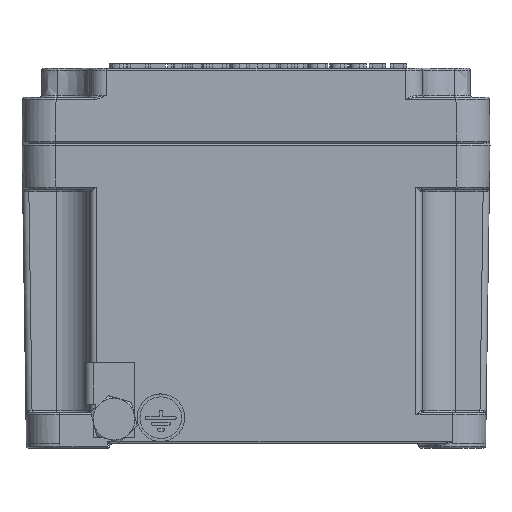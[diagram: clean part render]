
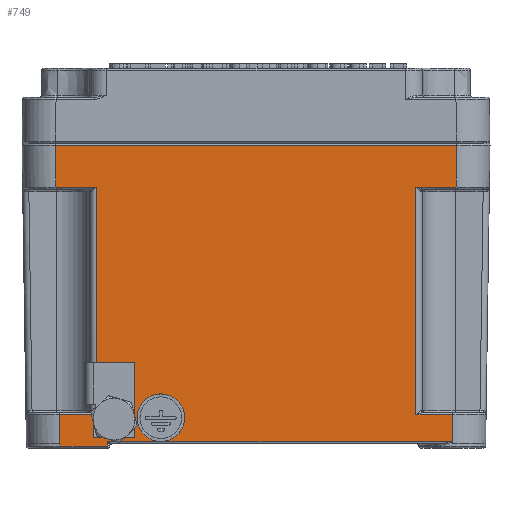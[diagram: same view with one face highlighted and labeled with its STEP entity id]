
A CAD part, left-side view. The second image highlights one B-rep face of the part: STEP entity #749.
In plain terms, the highlighted planar face has unit normal (-1, 0, -0.015).
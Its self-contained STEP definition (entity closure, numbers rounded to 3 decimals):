
#114=CARTESIAN_POINT('',(-55.174,22.786,11.981));
#115=VERTEX_POINT('',#114);
#116=CARTESIAN_POINT('',(-55.091,22.786,6.281));
#117=DIRECTION('',(1.,0.,0.015));
#118=DIRECTION('',(0.015,0.,-1.));
#119=AXIS2_PLACEMENT_3D('',#116,#117,#118);
#120=CIRCLE('',#119,5.7);
#121=EDGE_CURVE('',#115,#115,#120,.T.);
#600=CARTESIAN_POINT('',(-55.,-55.,0.0));
#601=DIRECTION('',(-1.,0.,-0.015));
#602=DIRECTION('',(0.0,-1.0,0.0));
#603=AXIS2_PLACEMENT_3D('',#600,#601,#602);
#604=PLANE('',#603);
#605=CARTESIAN_POINT('',(-55.007,35.493,0.493));
#606=VERTEX_POINT('',#605);
#607=CARTESIAN_POINT('',(-54.993,35.507,-0.507));
#608=VERTEX_POINT('',#607);
#609=CARTESIAN_POINT('',(-55.007,35.493,0.493));
#610=DIRECTION('',(0.015,0.015,-1.));
#611=VECTOR('',#610,1.);
#612=LINE('',#609,#611);
#613=EDGE_CURVE('',#606,#608,#612,.T.);
#614=ORIENTED_EDGE('',*,*,#613,.F.);
#615=CARTESIAN_POINT('',(-55.007,-47.001,0.493));
#616=VERTEX_POINT('',#615);
#617=CARTESIAN_POINT('',(-55.007,35.493,0.493));
#618=DIRECTION('',(0.0,-1.0,0.0));
#619=VECTOR('',#618,82.494);
#620=LINE('',#617,#619);
#621=EDGE_CURVE('',#606,#616,#620,.T.);
#622=ORIENTED_EDGE('',*,*,#621,.T.);
#623=CARTESIAN_POINT('',(-55.,-47.001,0.023));
#624=VERTEX_POINT('',#623);
#625=CARTESIAN_POINT('',(-55.007,-47.001,0.493));
#626=DIRECTION('',(0.015,0.0,-1.));
#627=VECTOR('',#626,0.469);
#628=LINE('',#625,#627);
#629=EDGE_CURVE('',#616,#624,#628,.T.);
#630=ORIENTED_EDGE('',*,*,#629,.T.);
#631=CARTESIAN_POINT('',(-55.102,-47.103,6.993));
#632=VERTEX_POINT('',#631);
#633=CARTESIAN_POINT('',(-55.102,-47.103,6.993));
#634=DIRECTION('',(0.015,0.015,-1.));
#635=VECTOR('',#634,6.971);
#636=LINE('',#633,#635);
#637=EDGE_CURVE('',#632,#624,#636,.T.);
#638=ORIENTED_EDGE('',*,*,#637,.F.);
#639=CARTESIAN_POINT('',(-55.102,-38.302,6.993));
#640=VERTEX_POINT('',#639);
#641=CARTESIAN_POINT('',(-55.102,-38.302,6.993));
#642=DIRECTION('',(0.0,-1.0,0.0));
#643=VECTOR('',#642,8.8);
#644=LINE('',#641,#643);
#645=EDGE_CURVE('',#640,#632,#644,.T.);
#646=ORIENTED_EDGE('',*,*,#645,.F.);
#647=CARTESIAN_POINT('',(-55.894,-38.291,61.493));
#648=VERTEX_POINT('',#647);
#649=CARTESIAN_POINT('',(-55.894,-38.291,61.493));
#650=DIRECTION('',(0.015,0.,-1.));
#651=VECTOR('',#650,54.506);
#652=LINE('',#649,#651);
#653=EDGE_CURVE('',#648,#640,#652,.T.);
#654=ORIENTED_EDGE('',*,*,#653,.F.);
#655=CARTESIAN_POINT('',(-55.894,-47.895,61.493));
#656=VERTEX_POINT('',#655);
#657=CARTESIAN_POINT('',(-55.894,-47.895,61.493));
#658=DIRECTION('',(0.0,1.0,0.0));
#659=VECTOR('',#658,9.604);
#660=LINE('',#657,#659);
#661=EDGE_CURVE('',#656,#648,#660,.T.);
#662=ORIENTED_EDGE('',*,*,#661,.F.);
#663=CARTESIAN_POINT('',(-56.039,-48.04,71.493));
#664=VERTEX_POINT('',#663);
#665=CARTESIAN_POINT('',(-56.039,-48.04,71.493));
#666=DIRECTION('',(0.015,0.015,-1.));
#667=VECTOR('',#666,10.002);
#668=LINE('',#665,#667);
#669=EDGE_CURVE('',#664,#656,#668,.T.);
#670=ORIENTED_EDGE('',*,*,#669,.F.);
#671=CARTESIAN_POINT('',(-56.039,48.04,71.493));
#672=VERTEX_POINT('',#671);
#673=CARTESIAN_POINT('',(-56.039,48.04,71.493));
#674=DIRECTION('',(0.0,-1.0,0.0));
#675=VECTOR('',#674,96.081);
#676=LINE('',#673,#675);
#677=EDGE_CURVE('',#672,#664,#676,.T.);
#678=ORIENTED_EDGE('',*,*,#677,.F.);
#679=CARTESIAN_POINT('',(-55.894,47.895,61.493));
#680=VERTEX_POINT('',#679);
#681=CARTESIAN_POINT('',(-55.894,47.895,61.493));
#682=DIRECTION('',(-0.015,0.015,1.));
#683=VECTOR('',#682,10.002);
#684=LINE('',#681,#683);
#685=EDGE_CURVE('',#680,#672,#684,.T.);
#686=ORIENTED_EDGE('',*,*,#685,.F.);
#687=CARTESIAN_POINT('',(-55.894,38.291,61.493));
#688=VERTEX_POINT('',#687);
#689=CARTESIAN_POINT('',(-55.894,38.291,61.493));
#690=DIRECTION('',(0.0,1.0,0.0));
#691=VECTOR('',#690,9.604);
#692=LINE('',#689,#691);
#693=EDGE_CURVE('',#688,#680,#692,.T.);
#694=ORIENTED_EDGE('',*,*,#693,.F.);
#695=CARTESIAN_POINT('',(-55.102,38.302,6.993));
#696=VERTEX_POINT('',#695);
#697=CARTESIAN_POINT('',(-55.102,38.302,6.993));
#698=DIRECTION('',(-0.015,0.,1.));
#699=VECTOR('',#698,54.506);
#700=LINE('',#697,#699);
#701=EDGE_CURVE('',#696,#688,#700,.T.);
#702=ORIENTED_EDGE('',*,*,#701,.F.);
#703=CARTESIAN_POINT('',(-55.102,47.103,6.993));
#704=VERTEX_POINT('',#703);
#705=CARTESIAN_POINT('',(-55.102,47.103,6.993));
#706=DIRECTION('',(0.0,-1.0,0.0));
#707=VECTOR('',#706,8.8);
#708=LINE('',#705,#707);
#709=EDGE_CURVE('',#704,#696,#708,.T.);
#710=ORIENTED_EDGE('',*,*,#709,.F.);
#711=CARTESIAN_POINT('',(-55.,47.001,0.0));
#712=VERTEX_POINT('',#711);
#713=CARTESIAN_POINT('',(-55.0,47.001,0.));
#714=DIRECTION('',(-0.015,0.015,1.));
#715=VECTOR('',#714,6.994);
#716=LINE('',#713,#715);
#717=EDGE_CURVE('',#712,#704,#716,.T.);
#718=ORIENTED_EDGE('',*,*,#717,.F.);
#719=CARTESIAN_POINT('',(-54.993,47.001,-0.507));
#720=VERTEX_POINT('',#719);
#721=CARTESIAN_POINT('',(-55.,47.001,0.0));
#722=DIRECTION('',(0.015,0.0,-1.));
#723=VECTOR('',#722,0.507);
#724=LINE('',#721,#723);
#725=EDGE_CURVE('',#712,#720,#724,.T.);
#726=ORIENTED_EDGE('',*,*,#725,.T.);
#727=CARTESIAN_POINT('',(-54.993,35.507,-0.507));
#728=DIRECTION('',(0.0,1.0,0.0));
#729=VECTOR('',#728,11.494);
#730=LINE('',#727,#729);
#731=EDGE_CURVE('',#608,#720,#730,.T.);
#732=ORIENTED_EDGE('',*,*,#731,.F.);
#733=EDGE_LOOP('',(#614,#622,#630,#638,#646,#654,#662,#670,#678,#686,#694,#702,#710,#718,#726,#732));
#734=FACE_OUTER_BOUND('',#733,.T.);
#735=CARTESIAN_POINT('',(-55.13,34.,8.943));
#736=VERTEX_POINT('',#735);
#737=CARTESIAN_POINT('',(-55.087,34.,5.993));
#738=DIRECTION('',(-1.,0.,-0.015));
#739=DIRECTION('',(0.015,0.0,-1.));
#740=AXIS2_PLACEMENT_3D('',#737,#738,#739);
#741=ELLIPSE('',#740,2.95,2.95);
#742=EDGE_CURVE('',#736,#736,#741,.T.);
#743=ORIENTED_EDGE('',*,*,#742,.F.);
#744=EDGE_LOOP('',(#743));
#745=FACE_BOUND('',#744,.T.);
#746=ORIENTED_EDGE('',*,*,#121,.T.);
#747=EDGE_LOOP('',(#746));
#748=FACE_BOUND('',#747,.T.);
#749=ADVANCED_FACE('',(#734,#745,#748),#604,.T.);
